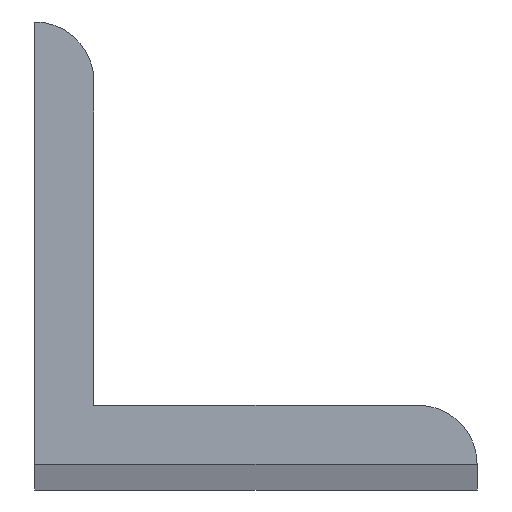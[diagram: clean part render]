
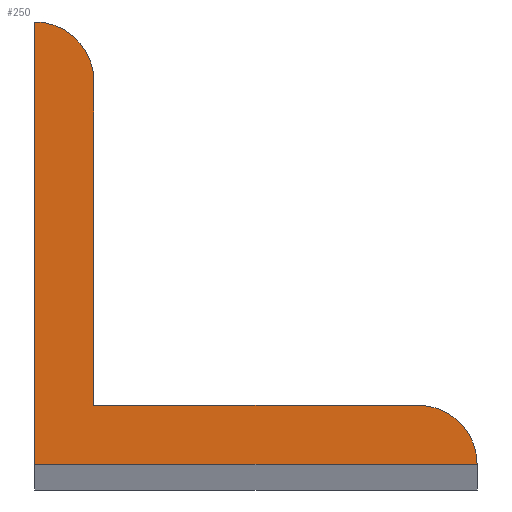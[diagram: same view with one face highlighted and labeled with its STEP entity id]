
A CAD part, top view. The second image highlights one B-rep face of the part: STEP entity #250.
In plain terms, the highlighted planar face has unit normal (0, 0, 1).
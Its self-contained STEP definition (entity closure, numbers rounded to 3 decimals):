
#2 = CIRCLE ( 'NONE', #89, 4. ) ;
#7 = CARTESIAN_POINT ( 'NONE',  ( 26., -30., 0. ) ) ;
#8 = VECTOR ( 'NONE', #46, 1000. ) ;
#10 = CARTESIAN_POINT ( 'NONE',  ( 4., -4., 0. ) ) ;
#12 = PLANE ( 'NONE',  #222 ) ;
#25 = DIRECTION ( 'NONE',  ( 1., 0., 0. ) ) ;
#29 = LINE ( 'NONE', #103, #8 ) ;
#33 = CARTESIAN_POINT ( 'NONE',  ( 0., -30., 0. ) ) ;
#34 = VERTEX_POINT ( 'NONE', #174 ) ;
#35 = ORIENTED_EDGE ( 'NONE', *, *, #122, .T. ) ;
#39 = ORIENTED_EDGE ( 'NONE', *, *, #211, .T. ) ;
#40 = EDGE_CURVE ( 'NONE', #244, #177, #136, .T. ) ;
#42 = DIRECTION ( 'NONE',  ( 0., 1., 0. ) ) ;
#43 = CARTESIAN_POINT ( 'NONE',  ( 0., -30., 0. ) ) ;
#44 = FACE_OUTER_BOUND ( 'NONE', #131, .T. ) ;
#46 = DIRECTION ( 'NONE',  ( -1., 0., 0. ) ) ;
#52 = ORIENTED_EDGE ( 'NONE', *, *, #256, .T. ) ;
#54 = CARTESIAN_POINT ( 'NONE',  ( 0., 0., 0. ) ) ;
#59 = VECTOR ( 'NONE', #42, 1000. ) ;
#62 = VERTEX_POINT ( 'NONE', #151 ) ;
#66 = CARTESIAN_POINT ( 'NONE',  ( 0., 0., 0. ) ) ;
#72 = EDGE_CURVE ( 'NONE', #177, #34, #254, .T. ) ;
#74 = CIRCLE ( 'NONE', #114, 4. ) ;
#75 = DIRECTION ( 'NONE',  ( 1., 0., 0. ) ) ;
#82 = LINE ( 'NONE', #205, #59 ) ;
#89 = AXIS2_PLACEMENT_3D ( 'NONE', #144, #163, #166 ) ;
#98 = VERTEX_POINT ( 'NONE', #233 ) ;
#103 = CARTESIAN_POINT ( 'NONE',  ( 30., -26., 0. ) ) ;
#114 = AXIS2_PLACEMENT_3D ( 'NONE', #7, #208, #25 ) ;
#120 = VECTOR ( 'NONE', #240, 1000. ) ;
#122 = EDGE_CURVE ( 'NONE', #220, #244, #2, .T. ) ;
#123 = DIRECTION ( 'NONE',  ( 1., 0., 0. ) ) ;
#126 = DIRECTION ( 'NONE',  ( 0., 0., 1. ) ) ;
#131 = EDGE_LOOP ( 'NONE', ( #138, #200, #52, #39, #35, #245 ) ) ;
#136 = LINE ( 'NONE', #54, #120 ) ;
#138 = ORIENTED_EDGE ( 'NONE', *, *, #72, .T. ) ;
#143 = CARTESIAN_POINT ( 'NONE',  ( 0., 0., 0. ) ) ;
#144 = CARTESIAN_POINT ( 'NONE',  ( 0., -4., 0. ) ) ;
#151 = CARTESIAN_POINT ( 'NONE',  ( 4., -26., 0. ) ) ;
#163 = DIRECTION ( 'NONE',  ( 0., 0., 1. ) ) ;
#165 = VECTOR ( 'NONE', #75, 1000. ) ;
#166 = DIRECTION ( 'NONE',  ( 1., 0., 0. ) ) ;
#174 = CARTESIAN_POINT ( 'NONE',  ( 30., -30., 0. ) ) ;
#177 = VERTEX_POINT ( 'NONE', #43 ) ;
#199 = EDGE_CURVE ( 'NONE', #34, #98, #74, .T. ) ;
#200 = ORIENTED_EDGE ( 'NONE', *, *, #199, .T. ) ;
#205 = CARTESIAN_POINT ( 'NONE',  ( 4., -26., 0. ) ) ;
#208 = DIRECTION ( 'NONE',  ( 0., 0., 1. ) ) ;
#211 = EDGE_CURVE ( 'NONE', #62, #220, #82, .T. ) ;
#220 = VERTEX_POINT ( 'NONE', #10 ) ;
#222 = AXIS2_PLACEMENT_3D ( 'NONE', #143, #126, #123 ) ;
#233 = CARTESIAN_POINT ( 'NONE',  ( 26., -26., 0. ) ) ;
#240 = DIRECTION ( 'NONE',  ( 0., -1., 0. ) ) ;
#244 = VERTEX_POINT ( 'NONE', #66 ) ;
#245 = ORIENTED_EDGE ( 'NONE', *, *, #40, .T. ) ;
#250 = ADVANCED_FACE ( 'NONE', ( #44 ), #12, .T. ) ;
#254 = LINE ( 'NONE', #33, #165 ) ;
#256 = EDGE_CURVE ( 'NONE', #98, #62, #29, .T. ) ;
